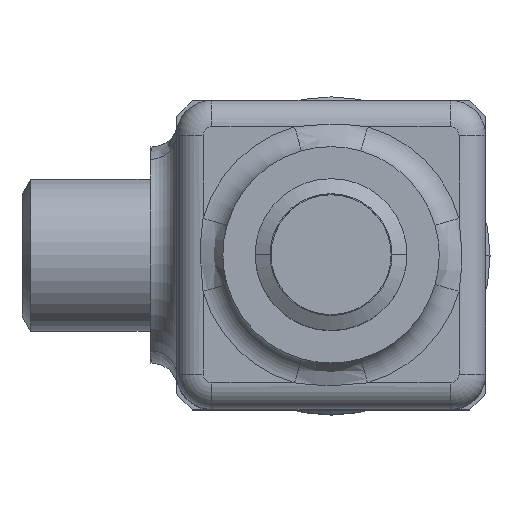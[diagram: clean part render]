
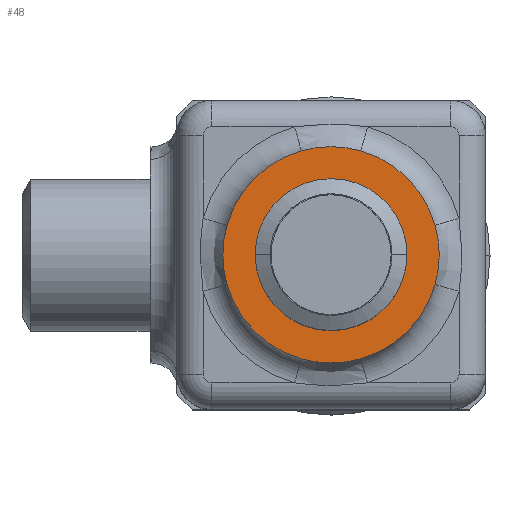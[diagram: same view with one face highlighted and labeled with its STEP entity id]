
A CAD part, top view. The second image highlights one B-rep face of the part: STEP entity #48.
In plain terms, the highlighted planar face has unit normal (0, 0, 1).
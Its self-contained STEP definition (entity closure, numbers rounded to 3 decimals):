
#31 = EDGE_LOOP ( 'NONE', ( #2887, #6818 ) ) ;
#48 = ADVANCED_FACE ( 'NONE', ( #651, #652 ), #653, .T. ) ;
#293 = VERTEX_POINT ( 'NONE', #3606 ) ;
#313 = EDGE_CURVE ( 'NONE', #390, #293, #4724, .T. ) ;
#350 = ORIENTED_EDGE ( 'NONE', *, *, #313, .T. ) ;
#390 = VERTEX_POINT ( 'NONE', #6222 ) ;
#410 = EDGE_CURVE ( 'NONE', #816, #390, #6432, .T. ) ;
#444 = ORIENTED_EDGE ( 'NONE', *, *, #410, .T. ) ;
#567 = VERTEX_POINT ( 'NONE', #7357 ) ;
#651 = FACE_BOUND ( 'NONE', #31, .T. ) ;
#652 = FACE_OUTER_BOUND ( 'NONE', #7748, .T. ) ;
#653 = PLANE ( 'NONE',  #654 ) ;
#654 = AXIS2_PLACEMENT_3D ( 'NONE', #655, #656, #659 ) ;
#655 = CARTESIAN_POINT ( 'NONE',  ( 0., 0., 35. ) ) ;
#656 = DIRECTION ( 'NONE',  ( 0., 0., 1. ) ) ;
#659 = DIRECTION ( 'NONE',  ( 1., 0., 0. ) ) ;
#781 = EDGE_CURVE ( 'NONE', #1637, #567, #7480, .T. ) ;
#816 = VERTEX_POINT ( 'NONE', #7505 ) ;
#1027 = EDGE_CURVE ( 'NONE', #6127, #816, #7566, .T. ) ;
#1136 = ORIENTED_EDGE ( 'NONE', *, *, #781, .T. ) ;
#1265 = CIRCLE ( 'NONE', #1266, 12.25 ) ;
#1266 = AXIS2_PLACEMENT_3D ( 'NONE', #1267, #1268, #1269 ) ;
#1267 = CARTESIAN_POINT ( 'NONE',  ( 0., 0., 35. ) ) ;
#1268 = DIRECTION ( 'NONE',  ( 0., 0., 1. ) ) ;
#1269 = DIRECTION ( 'NONE',  ( 1., 0., 0. ) ) ;
#1350 = ORIENTED_EDGE ( 'NONE', *, *, #1027, .T. ) ;
#1401 = CARTESIAN_POINT ( 'NONE',  ( 3.36, 11.78, 35. ) ) ;
#1475 = EDGE_CURVE ( 'NONE', #10164, #10187, #7783, .T. ) ;
#1555 = CARTESIAN_POINT ( 'NONE',  ( 11.78, 3.36, 35. ) ) ;
#1637 = VERTEX_POINT ( 'NONE', #8836 ) ;
#1678 = CIRCLE ( 'NONE', #1679, 12.25 ) ;
#1679 = AXIS2_PLACEMENT_3D ( 'NONE', #1680, #1681, #1682 ) ;
#1680 = CARTESIAN_POINT ( 'NONE',  ( 0., 0., 35. ) ) ;
#1681 = DIRECTION ( 'NONE',  ( 0., 0., 1. ) ) ;
#1682 = DIRECTION ( 'NONE',  ( 1., 0., 0. ) ) ;
#1691 = VERTEX_POINT ( 'NONE', #8848 ) ;
#1855 = EDGE_CURVE ( 'NONE', #293, #1637, #8949, .T. ) ;
#1969 = CIRCLE ( 'NONE', #1970, 12.25 ) ;
#1970 = AXIS2_PLACEMENT_3D ( 'NONE', #1971, #1972, #1973 ) ;
#1971 = CARTESIAN_POINT ( 'NONE',  ( 0., 0., 35. ) ) ;
#1972 = DIRECTION ( 'NONE',  ( 0., 0., 1. ) ) ;
#1973 = DIRECTION ( 'NONE',  ( 1., 0., 0. ) ) ;
#2210 = ORIENTED_EDGE ( 'NONE', *, *, #1855, .T. ) ;
#2887 = ORIENTED_EDGE ( 'NONE', *, *, #10250, .F. ) ;
#3550 = CARTESIAN_POINT ( 'NONE',  ( -8.6, 0., 35. ) ) ;
#3606 = CARTESIAN_POINT ( 'NONE',  ( -11.78, -3.36, 35. ) ) ;
#3848 = ORIENTED_EDGE ( 'NONE', *, *, #5717, .T. ) ;
#4640 = CARTESIAN_POINT ( 'NONE',  ( 8.6, 0., 35. ) ) ;
#4724 = CIRCLE ( 'NONE', #4725, 12.25 ) ;
#4725 = AXIS2_PLACEMENT_3D ( 'NONE', #4726, #4727, #4728 ) ;
#4726 = CARTESIAN_POINT ( 'NONE',  ( 0., 0., 35. ) ) ;
#4727 = DIRECTION ( 'NONE',  ( 0., 0., 1. ) ) ;
#4728 = DIRECTION ( 'NONE',  ( 1., 0., 0. ) ) ;
#5717 = EDGE_CURVE ( 'NONE', #567, #1691, #1265, .T. ) ;
#5815 = CIRCLE ( 'NONE', #5816, 8.6 ) ;
#5816 = AXIS2_PLACEMENT_3D ( 'NONE', #5817, #5818, #5819 ) ;
#5817 = CARTESIAN_POINT ( 'NONE',  ( 0., 0., 35. ) ) ;
#5818 = DIRECTION ( 'NONE',  ( 0., 0., 1. ) ) ;
#5819 = DIRECTION ( 'NONE',  ( 1., 0., 0. ) ) ;
#6127 = VERTEX_POINT ( 'NONE', #1401 ) ;
#6222 = CARTESIAN_POINT ( 'NONE',  ( -11.78, 3.36, 35. ) ) ;
#6335 = VERTEX_POINT ( 'NONE', #1555 ) ;
#6432 = CIRCLE ( 'NONE', #6433, 12.25 ) ;
#6433 = AXIS2_PLACEMENT_3D ( 'NONE', #6434, #6435, #6436 ) ;
#6434 = CARTESIAN_POINT ( 'NONE',  ( 0., 0., 35. ) ) ;
#6435 = DIRECTION ( 'NONE',  ( 0., 0., 1. ) ) ;
#6436 = DIRECTION ( 'NONE',  ( 1., 0., 0. ) ) ;
#6554 = EDGE_CURVE ( 'NONE', #6335, #6127, #1678, .T. ) ;
#6818 = ORIENTED_EDGE ( 'NONE', *, *, #1475, .F. ) ;
#6869 = ORIENTED_EDGE ( 'NONE', *, *, #6554, .T. ) ;
#7357 = CARTESIAN_POINT ( 'NONE',  ( 3.36, -11.78, 35. ) ) ;
#7480 = CIRCLE ( 'NONE', #7481, 12.25 ) ;
#7481 = AXIS2_PLACEMENT_3D ( 'NONE', #7482, #7483, #7484 ) ;
#7482 = CARTESIAN_POINT ( 'NONE',  ( 0., 0., 35. ) ) ;
#7483 = DIRECTION ( 'NONE',  ( 0., 0., 1. ) ) ;
#7484 = DIRECTION ( 'NONE',  ( 1., 0., 0. ) ) ;
#7505 = CARTESIAN_POINT ( 'NONE',  ( -3.36, 11.78, 35. ) ) ;
#7566 = CIRCLE ( 'NONE', #7567, 12.25 ) ;
#7567 = AXIS2_PLACEMENT_3D ( 'NONE', #7568, #7569, #7570 ) ;
#7568 = CARTESIAN_POINT ( 'NONE',  ( 0., 0., 35. ) ) ;
#7569 = DIRECTION ( 'NONE',  ( 0., 0., 1. ) ) ;
#7570 = DIRECTION ( 'NONE',  ( 1., 0., 0. ) ) ;
#7748 = EDGE_LOOP ( 'NONE', ( #6869, #1350, #444, #350, #2210, #1136, #3848, #7860 ) ) ;
#7783 = CIRCLE ( 'NONE', #7784, 8.6 ) ;
#7784 = AXIS2_PLACEMENT_3D ( 'NONE', #7788, #7789, #7790 ) ;
#7788 = CARTESIAN_POINT ( 'NONE',  ( 0., 0., 35. ) ) ;
#7789 = DIRECTION ( 'NONE',  ( 0., 0., 1. ) ) ;
#7790 = DIRECTION ( 'NONE',  ( 1., 0., 0. ) ) ;
#7860 = ORIENTED_EDGE ( 'NONE', *, *, #10107, .T. ) ;
#8836 = CARTESIAN_POINT ( 'NONE',  ( -3.36, -11.78, 35. ) ) ;
#8848 = CARTESIAN_POINT ( 'NONE',  ( 11.78, -3.36, 35. ) ) ;
#8949 = CIRCLE ( 'NONE', #8950, 12.25 ) ;
#8950 = AXIS2_PLACEMENT_3D ( 'NONE', #8951, #8952, #8953 ) ;
#8951 = CARTESIAN_POINT ( 'NONE',  ( 0., 0., 35. ) ) ;
#8952 = DIRECTION ( 'NONE',  ( 0., 0., 1. ) ) ;
#8953 = DIRECTION ( 'NONE',  ( 1., 0., 0. ) ) ;
#10107 = EDGE_CURVE ( 'NONE', #1691, #6335, #1969, .T. ) ;
#10164 = VERTEX_POINT ( 'NONE', #3550 ) ;
#10187 = VERTEX_POINT ( 'NONE', #4640 ) ;
#10250 = EDGE_CURVE ( 'NONE', #10187, #10164, #5815, .T. ) ;
